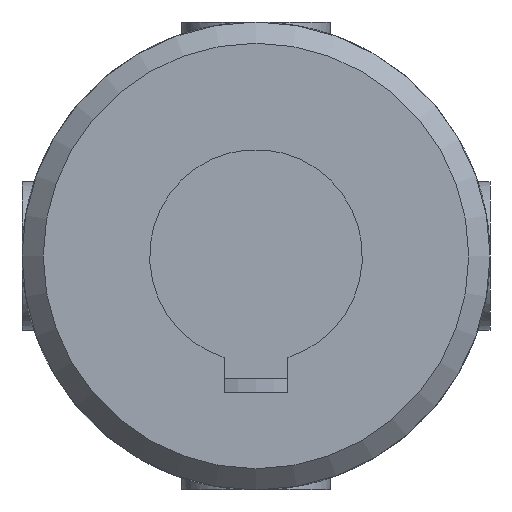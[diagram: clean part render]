
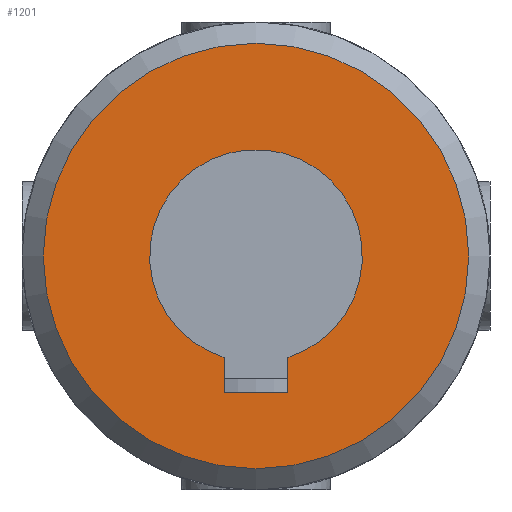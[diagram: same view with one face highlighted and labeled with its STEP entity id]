
A CAD part, front view. The second image highlights one B-rep face of the part: STEP entity #1201.
In plain terms, the highlighted planar face has unit normal (0, -1, 0).
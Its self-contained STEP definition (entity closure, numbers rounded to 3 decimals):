
#133=LINE('',#2165,#178);
#137=LINE('',#2192,#182);
#139=LINE('',#2200,#184);
#178=VECTOR('',#1568,1.63);
#182=VECTOR('',#1580,3.);
#184=VECTOR('',#1584,1.63);
#223=PLANE('',#1328);
#262=FACE_BOUND('',#426,.T.);
#320=FACE_OUTER_BOUND('',#425,.T.);
#425=EDGE_LOOP('',(#1017));
#426=EDGE_LOOP('',(#1018,#1019,#1020,#1021));
#491=CIRCLE('',#1315,5.);
#497=CIRCLE('',#1326,10.);
#581=VERTEX_POINT('',#2162);
#582=VERTEX_POINT('',#2164);
#585=VERTEX_POINT('',#2174);
#587=VERTEX_POINT('',#2190);
#596=VERTEX_POINT('',#2289);
#720=EDGE_CURVE('',#582,#581,#133,.T.);
#724=EDGE_CURVE('',#585,#582,#491,.T.);
#728=EDGE_CURVE('',#581,#587,#137,.T.);
#731=EDGE_CURVE('',#587,#585,#139,.T.);
#741=EDGE_CURVE('',#596,#596,#497,.T.);
#1017=ORIENTED_EDGE('',*,*,#741,.F.);
#1018=ORIENTED_EDGE('',*,*,#720,.T.);
#1019=ORIENTED_EDGE('',*,*,#728,.T.);
#1020=ORIENTED_EDGE('',*,*,#731,.T.);
#1021=ORIENTED_EDGE('',*,*,#724,.T.);
#1201=ADVANCED_FACE('',(#320,#262),#223,.F.);
#1315=AXIS2_PLACEMENT_3D('',#2175,#1574,#1575);
#1326=AXIS2_PLACEMENT_3D('',#2290,#1601,#1602);
#1328=AXIS2_PLACEMENT_3D('',#2466,#1609,#1610);
#1568=DIRECTION('',(0.,0.,-1.));
#1574=DIRECTION('center_axis',(0.,1.,0.));
#1575=DIRECTION('ref_axis',(0.3,0.,-0.954));
#1580=DIRECTION('',(-1.,0.,0.));
#1584=DIRECTION('',(0.,0.,1.));
#1601=DIRECTION('center_axis',(0.,1.,0.));
#1602=DIRECTION('ref_axis',(1.,0.,0.));
#1609=DIRECTION('center_axis',(0.,1.,0.));
#1610=DIRECTION('ref_axis',(0.,0.,1.));
#2162=CARTESIAN_POINT('',(1.5,-29.5,-6.4));
#2164=CARTESIAN_POINT('',(1.5,-29.5,-4.77));
#2165=CARTESIAN_POINT('',(1.5,-29.5,-2.385));
#2174=CARTESIAN_POINT('',(-1.5,-29.5,-4.77));
#2175=CARTESIAN_POINT('Origin',(0.,-29.5,0.));
#2190=CARTESIAN_POINT('',(-1.5,-29.5,-6.4));
#2192=CARTESIAN_POINT('',(0.75,-29.5,-6.4));
#2200=CARTESIAN_POINT('',(-1.5,-29.5,-3.2));
#2289=CARTESIAN_POINT('',(-10.,-29.5,0.));
#2290=CARTESIAN_POINT('Origin',(0.,-29.5,0.));
#2466=CARTESIAN_POINT('Origin',(0.,-29.5,0.));
